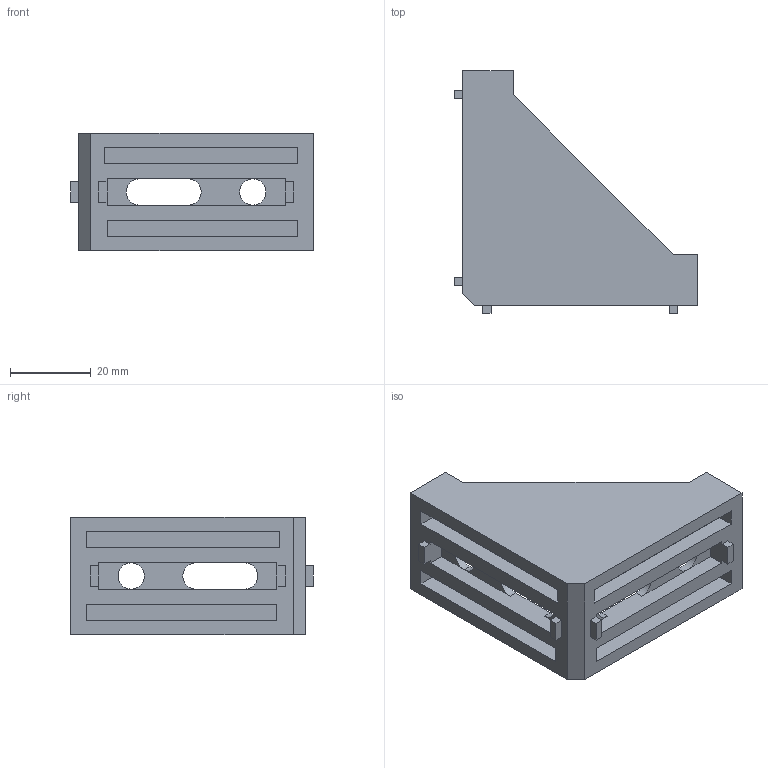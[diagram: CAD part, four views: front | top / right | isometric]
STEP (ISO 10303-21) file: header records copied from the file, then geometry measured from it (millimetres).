
FILE_DESCRIPTION (( 'STEP AP203' ), '1' );
FILE_NAME ('57－CE-RA3060G-6.STEP', '2015-07-08T01:35:55', ( '' ), ( '' ), 'SwSTEP 2.0', 'SolidWorks 2013', '' );
FILE_SCHEMA (( 'CONFIG_CONTROL_DESIGN' ));
Length unit declared in the file: millimetre
Products named in the file (1): 57－CE-RA3060G-6
Bounding box: 60 x 60 x 29 mm (x, y, z)
Volume: 18134 mm3; surface area: 12984 mm2
Topology: 1 solids, 1 shells, 72 faces, 198 edges, 130 vertices
Faces by surface type: plane 63, cylinder 9
Entity records: 2347 total; most frequent: CARTESIAN_POINT 401, ORIENTED_EDGE 396, DIRECTION 364, EDGE_CURVE 198, VECTOR 178, LINE 178, VERTEX_POINT 130, AXIS2_PLACEMENT_3D 93
